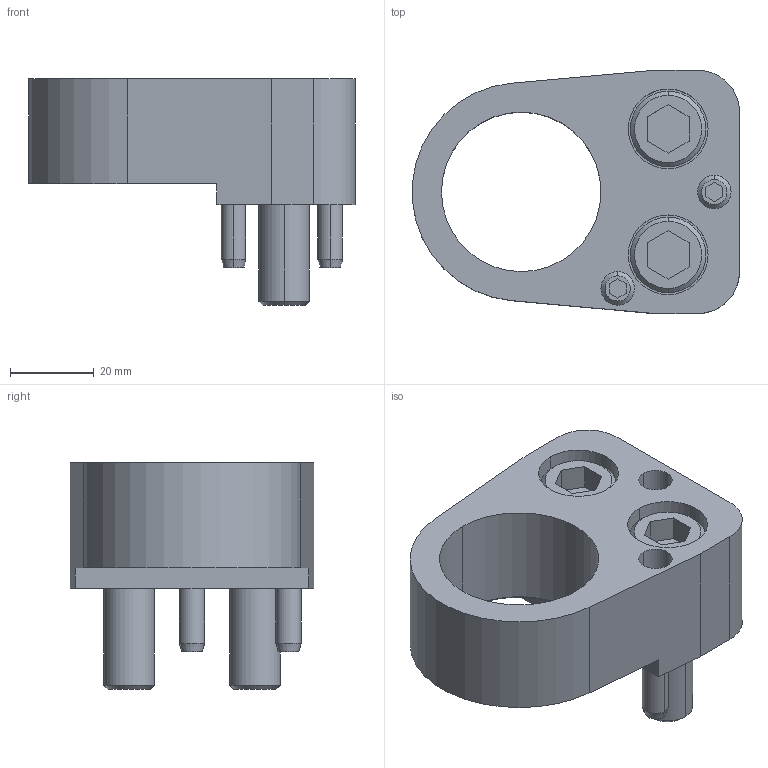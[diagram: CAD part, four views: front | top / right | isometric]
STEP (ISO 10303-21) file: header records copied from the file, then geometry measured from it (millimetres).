
FILE_DESCRIPTION(/* description */ (''),/* implementation_level */ '2;1');
FILE_NAME(/* name */ '3d_cpfr38_02864_r00.stp',/* time_stamp */ '2011-01-10T14:16:25+09:00',/* author */ ('MISUMI'),/* organization */ (''),/* preprocessor_version */ 'ST-DEVELOPER v11',/* originating_system */ 'UGS - NX 5.0',/* authorisation */ '');
FILE_SCHEMA (('CONFIG_CONTROL_DESIGN'));
Length unit declared in the file: millimetre
Products named in the file (1): 3d_cpfr38_02864_r00
Bounding box: 77.9 x 58 x 54 mm (x, y, z)
Volume: 80996.7 mm3; surface area: 26762 mm2
Topology: 7 solids, 7 shells, 134 faces, 296 edges, 189 vertices
Faces by surface type: plane 61, cylinder 47, cone 26
Entity records: 3836 total; most frequent: DIRECTION 682, CARTESIAN_POINT 671, ORIENTED_EDGE 592, EDGE_CURVE 296, AXIS2_PLACEMENT_3D 256, VERTEX_POINT 189, LINE 170, VECTOR 170
